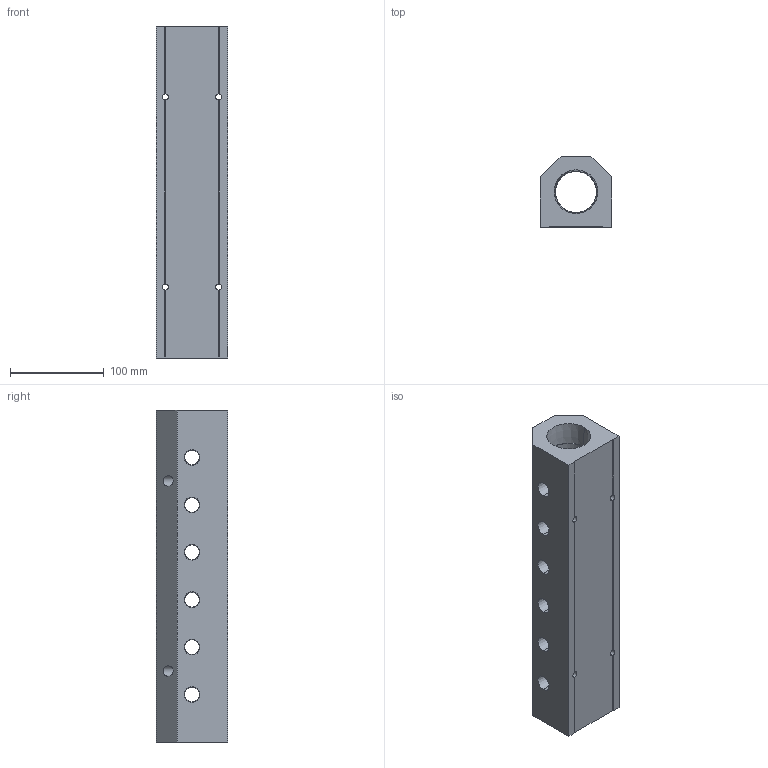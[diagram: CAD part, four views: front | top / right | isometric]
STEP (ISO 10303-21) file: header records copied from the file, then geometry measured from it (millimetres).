
FILE_DESCRIPTION (( 'STEP AP214' ), '1' );
FILE_NAME ('ALM6ACE-N6N24-355B.step', '2022-02-07T09:08:23', ( '' ), ( '' ), 'SwSTEP 2.0', 'SolidWorks 2020', '' );
FILE_SCHEMA (( 'AUTOMOTIVE_DESIGN' ));
Length unit declared in the file: millimetre
Products named in the file (1): ALM6ACE-N6N24-355B
Bounding box: 76.2 x 76.2 x 355 mm (x, y, z)
Volume: 1258530 mm3; surface area: 169138 mm2
Topology: 1 solids, 1 shells, 348 faces, 943 edges, 618 vertices
Faces by surface type: plane 215, bspline 75, cone 40, cylinder 18
Entity records: 20371 total; most frequent: CARTESIAN_POINT 8757, ORIENTED_EDGE 1886, DIRECTION 1361, EDGE_CURVE 943, VECTOR 669, LINE 669, VERTEX_POINT 618, EDGE_LOOP 415
